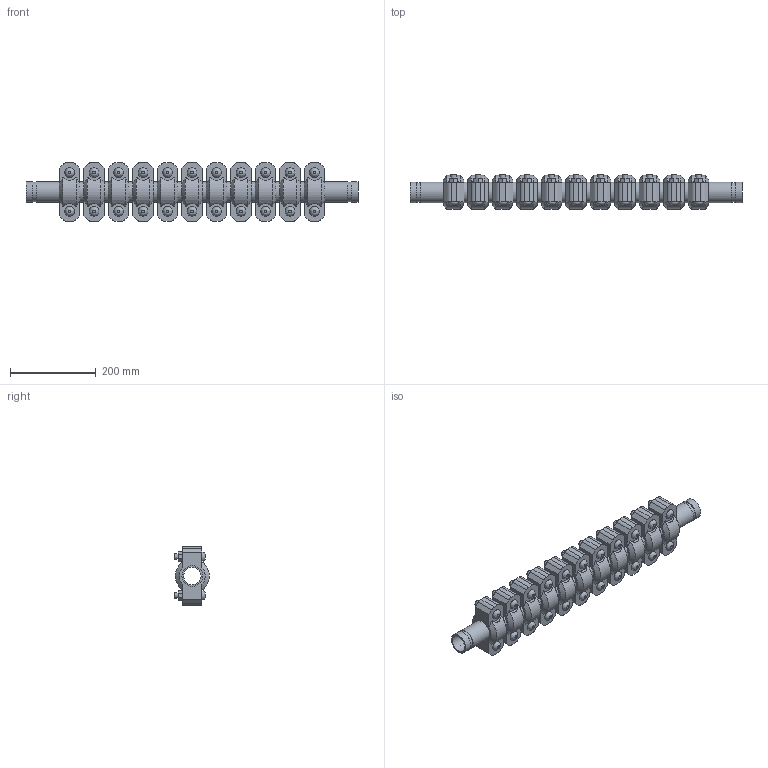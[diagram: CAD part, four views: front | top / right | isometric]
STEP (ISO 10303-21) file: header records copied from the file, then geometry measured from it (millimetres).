
FILE_DESCRIPTION(/* description */ ('VIC EXPANSION JOINT 11 COUPLINGS COMPRESSED STYLE 155 (OGS)','CAx-IF Rec.Pracs.---Representation and Presentation of Product Manufacturing Information (PMI)---4.0---2014-10-13'),/* implementation_level */ '2;1');
FILE_NAME(/* name */ 'C:\Users\kkamble\AppData\Roaming\Autodesk\ApplicationPlugins\Victaulic.Temp\A956\Victaulic_IPS_Expansion Joint_Compressed_11 Couplings_Style 155 (OGS)_1.5 (40).stp',/* time_stamp */ '2021-06-27T00:18:38+02:00',/* author */ ('kkamble'),/* organization */ ('Victaulic'),/* preprocessor_version */ 'ST-DEVELOPER v17.2',/* originating_system */ 'Autodesk Inventor 2019',/* authorisation */ '');
FILE_SCHEMA (('AP242_MANAGED_MODEL_BASED_3D_ENGINEERING_MIM_LF { 1 0 10303 442 1 1 4 }'));
Length unit declared in the file: inch
Products named in the file (4): 155-01.5; Nipple-01.5; Nipple-01.5_1; 077-01.5
Assembly tree (23 placements, depth 2):
  155-01.5
    Nipple-01.5  x2
    Nipple-01.5_1  x10
    077-01.5  x11
Bounding box: 774.7 x 81.03 x 136.65 mm (x, y, z)
Volume: 3250426.9 mm3; surface area: 730397.8 mm2
Topology: 23 solids, 45 shells, 771 faces, 1889 edges, 1322 vertices
Faces by surface type: plane 446, cylinder 259, cone 44, bspline 22
Full cylindrical faces by diameter (mm): 12.7 x44, 14.605 x22, 40.894 x12, 45.085 x24, 48.26 x47
Entity records: 3019 total; most frequent: CARTESIAN_POINT 601, DIRECTION 491, ORIENTED_EDGE 398, EDGE_CURVE 199, AXIS2_PLACEMENT_3D 198, VERTEX_POINT 142, EDGE_LOOP 105, LINE 95
